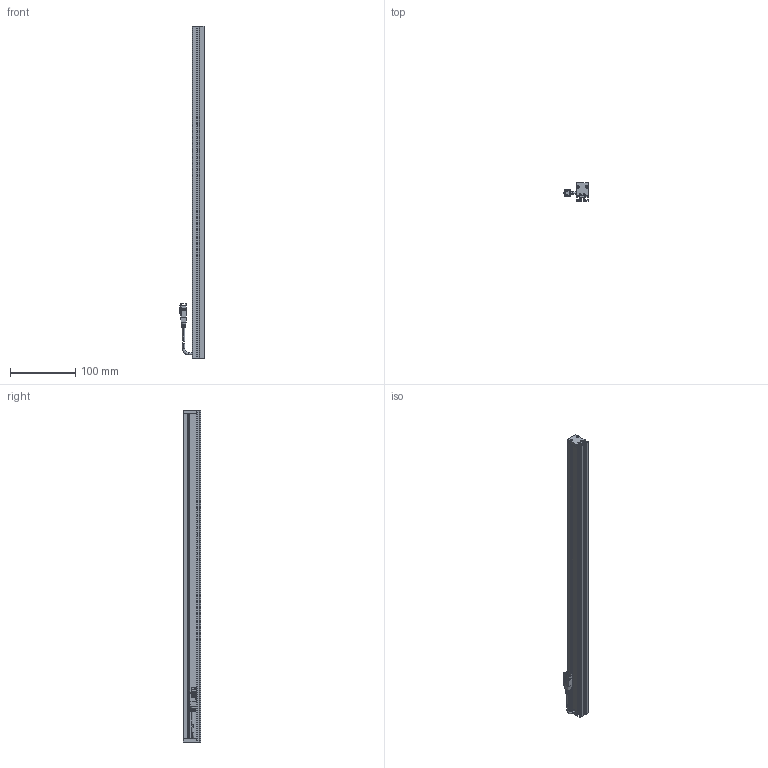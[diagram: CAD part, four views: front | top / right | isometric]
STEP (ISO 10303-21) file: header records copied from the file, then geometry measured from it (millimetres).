
FILE_DESCRIPTION (( 'STEP AP203' ), '1' );
FILE_NAME ('CK-BL50718.STEP', '2025-12-26T08:46:35', ( '' ), ( '' ), 'SwSTEP 2.0', 'SolidWorks 2022', '' );
FILE_SCHEMA (( 'CONFIG_CONTROL_DESIGN' ));
Length unit declared in the file: millimetre
Products named in the file (6): 十字沉头螺丝 M2x10; CK-BL50718-003A; CK-BL50718; 光源线-01; CK-BL50718-001A; CK-BL50718-002A
Assembly tree (9 placements, depth 2):
  CK-BL50718
    CK-BL50718-001A
    CK-BL50718-002A  x2
    CK-BL50718-003A
    光源线-01
    十字沉头螺丝 M2x10  x4
Bounding box: 37.34 x 27 x 507 mm (x, y, z)
Volume: 114331.9 mm3; surface area: 112896.5 mm2
Topology: 11 solids, 11 shells, 474 faces, 1231 edges, 780 vertices
Faces by surface type: plane 271, cylinder 149, cone 34, bspline 20
Entity records: 12442 total; most frequent: CARTESIAN_POINT 2514, ORIENTED_EDGE 1936, DIRECTION 1916, EDGE_CURVE 968, LINE 668, VECTOR 668, VERTEX_POINT 626, AXIS2_PLACEMENT_3D 624
